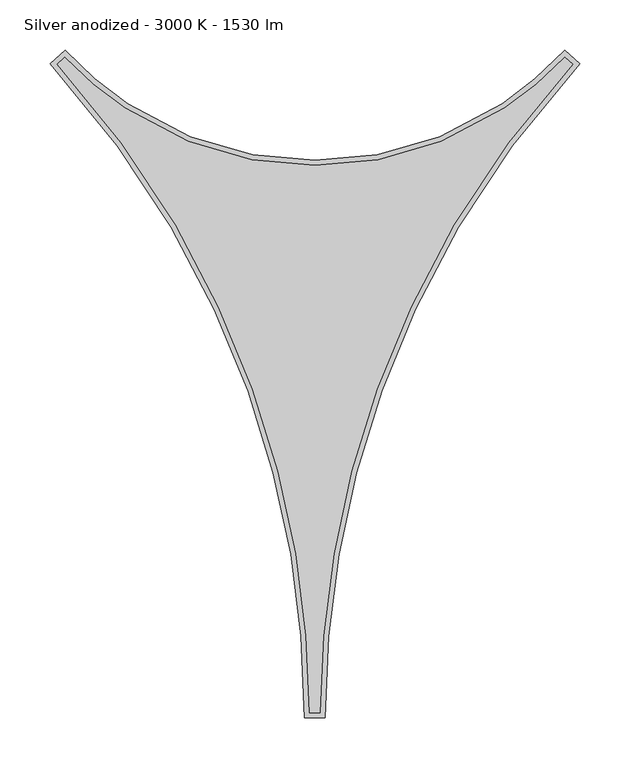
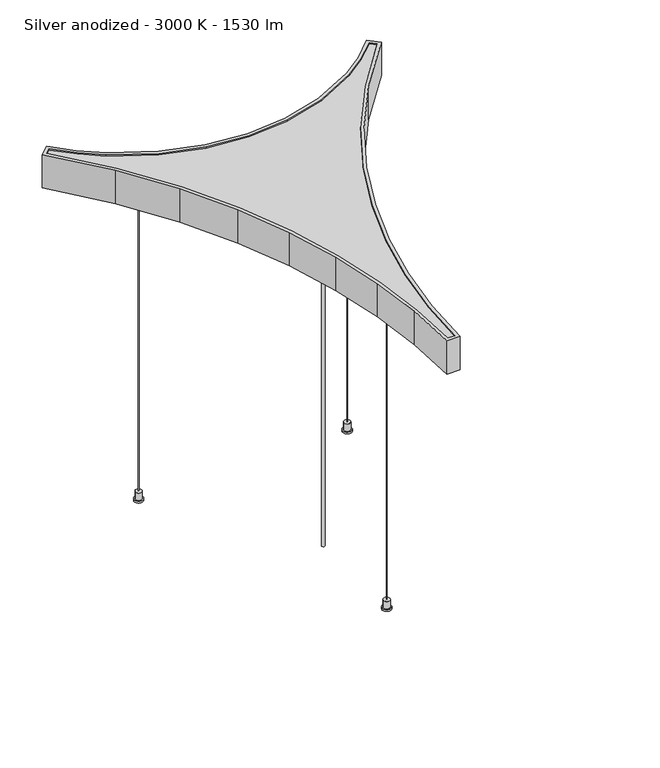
"""IFC4 building model written with IfcOpenShell, lengths in millimetres: light fixture geometry, KLUŚ - MIFOR - MI-SAIL-S : Silver anodized - 3000 K - 1530 lm."""

from ifc_helpers import new_model, si_unit, point, frame, frame_2d, origin, origin_with_axes, origin_2d, place, context, project, spatial, polyline, circle_curve, trimmed, segment, composite_curve, outline, extrude, source, transform, mapped, element, save


def silver_anodized_3000_k_1530_lm_bc2a5f50(model_context):
    return source(origin(), model_context, "Body", "SweptSolid", [
        extrude(outline(composite_curve([segment(trimmed(circle_curve(frame_2d((0.0, -171.5224088)), 1.75), [point((1.75, -171.5224088))], [point((-1.75, -171.5224088))], False, "CARTESIAN"), True, "CONTINUOUS"), segment(trimmed(circle_curve(frame_2d((0.0, -171.5224088)), 1.75), [point((-1.75, -171.5224088))], [point((1.75, -171.5224088))], False, "CARTESIAN"), True, "CONTINUOUS")], self_intersect=False)), frame((0.0, 0.0, 500.5), z_axis=(0.0, 0.0, 1.0), x_axis=(1.0, 0.0, 0.0)), (0.0, 0.0, 1.0), 3.5),
        extrude(outline(composite_curve([segment(trimmed(circle_curve(frame_2d((162.9010624, 217.6275157)), 1.75), [point((164.6510624, 217.6275157))], [point((161.1510624, 217.6275157))], False, "CARTESIAN"), True, "CONTINUOUS"), segment(trimmed(circle_curve(frame_2d((162.9010624, 217.6275157)), 1.75), [point((161.1510624, 217.6275157))], [point((164.6510624, 217.6275157))], False, "CARTESIAN"), True, "CONTINUOUS")], self_intersect=False)), frame((0.0, 0.0, 500.5), z_axis=(0.0, 0.0, 1.0), x_axis=(1.0, 0.0, 0.0)), (0.0, 0.0, 1.0), 3.5),
        extrude(outline(composite_curve([segment(trimmed(circle_curve(frame_2d((-162.9010624, 217.6275157)), 1.75), [point((-161.1510624, 217.6275157))], [point((-164.6510624, 217.6275157))], False, "CARTESIAN"), True, "CONTINUOUS"), segment(trimmed(circle_curve(frame_2d((-162.9010624, 217.6275157)), 1.75), [point((-164.6510624, 217.6275157))], [point((-161.1510624, 217.6275157))], False, "CARTESIAN"), True, "CONTINUOUS")], self_intersect=False)), frame((0.0, 0.0, 500.5), z_axis=(0.0, 0.0, 1.0), x_axis=(1.0, 0.0, 0.0)), (0.0, 0.0, 1.0), 3.5),
        extrude(outline(composite_curve([segment(trimmed(circle_curve(frame_2d((0.0, -171.5224088)), 5.0), [point((5.0, -171.5224088))], [point((-5.0, -171.5224088))], False, "CARTESIAN"), True, "CONTINUOUS"), segment(trimmed(circle_curve(frame_2d((0.0, -171.5224088)), 5.0), [point((-5.0, -171.5224088))], [point((5.0, -171.5224088))], False, "CARTESIAN"), True, "CONTINUOUS")], self_intersect=False)), frame((0.0, 0.0, 3.0), z_axis=(0.0, 0.0, 1.0), x_axis=(1.0, 0.0, 0.0)), (0.0, 0.0, 1.0), 12.0),
        extrude(outline(composite_curve([segment(trimmed(circle_curve(frame_2d((162.9010624, 217.6275157)), 5.0), [point((167.9010624, 217.6275157))], [point((157.9010624, 217.6275157))], False, "CARTESIAN"), True, "CONTINUOUS"), segment(trimmed(circle_curve(frame_2d((162.9010624, 217.6275157)), 5.0), [point((157.9010624, 217.6275157))], [point((167.9010624, 217.6275157))], False, "CARTESIAN"), True, "CONTINUOUS")], self_intersect=False)), frame((0.0, 0.0, 3.0), z_axis=(0.0, 0.0, 1.0), x_axis=(1.0, 0.0, 0.0)), (0.0, 0.0, 1.0), 12.0),
        extrude(outline(composite_curve([segment(trimmed(circle_curve(frame_2d((-162.9010624, 217.6275157)), 5.0), [point((-157.9010624, 217.6275157))], [point((-167.9010624, 217.6275157))], False, "CARTESIAN"), True, "CONTINUOUS"), segment(trimmed(circle_curve(frame_2d((-162.9010624, 217.6275157)), 5.0), [point((-167.9010624, 217.6275157))], [point((-157.9010624, 217.6275157))], False, "CARTESIAN"), True, "CONTINUOUS")], self_intersect=False)), frame((0.0, 0.0, 3.0), z_axis=(0.0, 0.0, 1.0), x_axis=(1.0, 0.0, 0.0)), (0.0, 0.0, 1.0), 12.0),
        extrude(outline(composite_curve([segment(trimmed(circle_curve(origin_2d(), 2.5), [point((2.5, 0.0))], [point((-2.5, 0.0))], False, "CARTESIAN"), True, "CONTINUOUS"), segment(trimmed(circle_curve(origin_2d(), 2.5), [point((-2.5, 0.0))], [point((2.5, 0.0))], False, "CARTESIAN"), True, "CONTINUOUS")], self_intersect=False)), origin_with_axes(), (0.0, 0.0, 1.0), 516.0),
        extrude(outline(composite_curve([segment(trimmed(circle_curve(frame_2d((-972.7974298, -350.4086266)), 967.5478962), [point((-193.5831968, 223.1540209))], [point((-257.9456293, 301.6157861))], True, "CARTESIAN"), True, "CONTINUOUS"), segment(polyline([(-257.9456293, 301.6157861), (-250.1957669, 308.7360509)]), True, "CONTINUOUS"), segment(trimmed(circle_curve(frame_2d((0.0004669, 543.359327)), 342.9959724), [point((-250.1957669, 308.7360509))], [point((-190.1832456, 257.9186281))], True, "CARTESIAN"), True, "CONTINUOUS"), segment(trimmed(circle_curve(frame_2d((0.0004664, 543.3593264)), 342.9959716), [point((-190.1832456, 257.9186281))], [point((-126.8021294, 224.6630161))], True, "CARTESIAN"), True, "CONTINUOUS"), segment(trimmed(circle_curve(frame_2d((0.0004664, 543.3593264)), 342.9959717), [point((-126.8021294, 224.6630161))], [point((-63.4010682, 206.2740524))], True, "CARTESIAN"), True, "CONTINUOUS"), segment(trimmed(circle_curve(frame_2d((0.0004664, 543.3593264)), 342.9959716), [point((-63.4010682, 206.2740524))], [point((0.0004664, 200.3633549))], True, "CARTESIAN"), True, "CONTINUOUS"), segment(trimmed(circle_curve(frame_2d((0.0004664, 543.3593264)), 342.9959717), [point((0.0004664, 200.3633549))], [point((63.4010543, 206.2738743))], True, "CARTESIAN"), True, "CONTINUOUS"), segment(trimmed(circle_curve(frame_2d((0.0004664, 543.3593264)), 342.9959715), [point((63.4010543, 206.2738743))], [point((126.8021156, 224.6626395))], True, "CARTESIAN"), True, "CONTINUOUS"), segment(trimmed(circle_curve(frame_2d((0.0004664, 543.3593264)), 342.9959717), [point((126.8021156, 224.6626395))], [point((190.212643, 257.9375956))], True, "CARTESIAN"), True, "CONTINUOUS"), segment(trimmed(circle_curve(frame_2d((0.000466, 543.3593269)), 342.9959723), [point((190.212643, 257.9375956))], [point((250.1966998, 308.7360509))], True, "CARTESIAN"), True, "CONTINUOUS"), segment(polyline([(250.1966998, 308.7360509), (257.9460546, 301.6162524)]), True, "CONTINUOUS"), segment(trimmed(circle_curve(frame_2d((972.7974298, -350.4086266)), 967.5478962), [point((257.9460546, 301.6162524))], [point((193.5831968, 223.1540209))], True, "CARTESIAN"), True, "CONTINUOUS"), segment(trimmed(circle_curve(frame_2d((972.7974298, -350.4086266)), 967.5478962), [point((193.5831968, 223.1540209))], [point((139.331527, 141.001101))], True, "CARTESIAN"), True, "CONTINUOUS"), segment(trimmed(circle_curve(frame_2d((972.7974298, -350.4086266)), 967.5478962), [point((139.331527, 141.001101))], [point((96.0661159, 58.8481812))], True, "CARTESIAN"), True, "CONTINUOUS"), segment(trimmed(circle_curve(frame_2d((972.7974298, -350.4086266)), 967.5478962), [point((96.0661159, 58.8481812))], [point((62.2196033, -23.3047387))], True, "CARTESIAN"), True, "CONTINUOUS"), segment(trimmed(circle_curve(frame_2d((972.7974298, -350.4086266)), 967.5478962), [point((62.2196033, -23.3047387))], [point((36.7696766, -105.4576587))], True, "CARTESIAN"), True, "CONTINUOUS"), segment(trimmed(circle_curve(frame_2d((972.7974298, -350.4086266)), 967.5478962), [point((36.7696766, -105.4576587))], [point((19.0453536, -187.6022735))], True, "CARTESIAN"), True, "CONTINUOUS"), segment(trimmed(circle_curve(frame_2d((972.7974298, -350.4086266)), 967.5478962), [point((19.0453536, -187.6022735))], [point((8.6120646, -269.8138816))], True, "CARTESIAN"), True, "CONTINUOUS"), segment(trimmed(circle_curve(frame_2d((972.7974298, -350.4086266)), 967.5478962), [point((8.6120646, -269.8138816))], [point((5.255864, -346.9086266))], True, "CARTESIAN"), True, "CONTINUOUS"), segment(polyline([(5.255864, -346.9086266), (-5.255864, -346.9086266)]), True, "CONTINUOUS"), segment(trimmed(circle_curve(frame_2d((-972.7974298, -350.4086266)), 967.5478962), [point((-5.255864, -346.9086266))], [point((-8.6120646, -269.8138816))], True, "CARTESIAN"), True, "CONTINUOUS"), segment(trimmed(circle_curve(frame_2d((-972.7974298, -350.4086266)), 967.5478962), [point((-8.6120646, -269.8138816))], [point((-19.0453536, -187.6022735))], True, "CARTESIAN"), True, "CONTINUOUS"), segment(trimmed(circle_curve(frame_2d((-972.7974298, -350.4086266)), 967.5478962), [point((-19.0453536, -187.6022735))], [point((-36.7696766, -105.4576587))], True, "CARTESIAN"), True, "CONTINUOUS"), segment(trimmed(circle_curve(frame_2d((-972.7974298, -350.4086266)), 967.5478962), [point((-36.7696766, -105.4576587))], [point((-62.2196033, -23.3047387))], True, "CARTESIAN"), True, "CONTINUOUS"), segment(trimmed(circle_curve(frame_2d((-972.7974298, -350.4086266)), 967.5478962), [point((-62.2196033, -23.3047387))], [point((-96.0661159, 58.8481812))], True, "CARTESIAN"), True, "CONTINUOUS"), segment(trimmed(circle_curve(frame_2d((-972.7974298, -350.4086266)), 967.5478962), [point((-96.0661159, 58.8481812))], [point((-139.331527, 141.001101))], True, "CARTESIAN"), True, "CONTINUOUS"), segment(trimmed(circle_curve(frame_2d((-972.7974298, -350.4086266)), 967.5478962), [point((-139.331527, 141.001101))], [point((-193.5831968, 223.1540209))], True, "CARTESIAN"), True, "CONTINUOUS")], self_intersect=False)), frame((0.0, 0.0, 516.0), z_axis=(0.0, 0.0, 1.0), x_axis=(1.0, 0.0, 0.0)), (0.0, 0.0, 1.0), 2.0),
        extrude(outline(composite_curve([segment(trimmed(circle_curve(frame_2d((-972.7974298, -350.4086266)), 967.5478962), [point((-193.5831968, 223.1540209))], [point((-257.9456293, 301.6157861))], True, "CARTESIAN"), True, "CONTINUOUS"), segment(polyline([(-257.9456293, 301.6157861), (-250.1957669, 308.7360509)]), True, "CONTINUOUS"), segment(trimmed(circle_curve(frame_2d((0.0004669, 543.359327)), 342.9959724), [point((-250.1957669, 308.7360509))], [point((-190.1832456, 257.9186281))], True, "CARTESIAN"), True, "CONTINUOUS"), segment(trimmed(circle_curve(frame_2d((0.0004664, 543.3593264)), 342.9959716), [point((-190.1832456, 257.9186281))], [point((-126.8021294, 224.6630161))], True, "CARTESIAN"), True, "CONTINUOUS"), segment(trimmed(circle_curve(frame_2d((0.0004664, 543.3593264)), 342.9959717), [point((-126.8021294, 224.6630161))], [point((-63.4010682, 206.2740524))], True, "CARTESIAN"), True, "CONTINUOUS"), segment(trimmed(circle_curve(frame_2d((0.0004664, 543.3593264)), 342.9959716), [point((-63.4010682, 206.2740524))], [point((0.0004664, 200.3633549))], True, "CARTESIAN"), True, "CONTINUOUS"), segment(trimmed(circle_curve(frame_2d((0.0004664, 543.3593264)), 342.9959717), [point((0.0004664, 200.3633549))], [point((63.4010543, 206.2738743))], True, "CARTESIAN"), True, "CONTINUOUS"), segment(trimmed(circle_curve(frame_2d((0.0004664, 543.3593264)), 342.9959715), [point((63.4010543, 206.2738743))], [point((126.8021156, 224.6626395))], True, "CARTESIAN"), True, "CONTINUOUS"), segment(trimmed(circle_curve(frame_2d((0.0004664, 543.3593264)), 342.9959717), [point((126.8021156, 224.6626395))], [point((190.212643, 257.9375956))], True, "CARTESIAN"), True, "CONTINUOUS"), segment(trimmed(circle_curve(frame_2d((0.000466, 543.3593269)), 342.9959723), [point((190.212643, 257.9375956))], [point((250.1966998, 308.7360509))], True, "CARTESIAN"), True, "CONTINUOUS"), segment(polyline([(250.1966998, 308.7360509), (257.9460546, 301.6162524)]), True, "CONTINUOUS"), segment(trimmed(circle_curve(frame_2d((972.7974298, -350.4086266)), 967.5478962), [point((257.9460546, 301.6162524))], [point((193.5831968, 223.1540209))], True, "CARTESIAN"), True, "CONTINUOUS"), segment(trimmed(circle_curve(frame_2d((972.7974298, -350.4086266)), 967.5478962), [point((193.5831968, 223.1540209))], [point((139.331527, 141.001101))], True, "CARTESIAN"), True, "CONTINUOUS"), segment(trimmed(circle_curve(frame_2d((972.7974298, -350.4086266)), 967.5478962), [point((139.331527, 141.001101))], [point((96.0661159, 58.8481812))], True, "CARTESIAN"), True, "CONTINUOUS"), segment(trimmed(circle_curve(frame_2d((972.7974298, -350.4086266)), 967.5478962), [point((96.0661159, 58.8481812))], [point((62.2196033, -23.3047387))], True, "CARTESIAN"), True, "CONTINUOUS"), segment(trimmed(circle_curve(frame_2d((972.7974298, -350.4086266)), 967.5478962), [point((62.2196033, -23.3047387))], [point((36.7696766, -105.4576587))], True, "CARTESIAN"), True, "CONTINUOUS"), segment(trimmed(circle_curve(frame_2d((972.7974298, -350.4086266)), 967.5478962), [point((36.7696766, -105.4576587))], [point((19.0453536, -187.6022735))], True, "CARTESIAN"), True, "CONTINUOUS"), segment(trimmed(circle_curve(frame_2d((972.7974298, -350.4086266)), 967.5478962), [point((19.0453536, -187.6022735))], [point((8.6120646, -269.8138816))], True, "CARTESIAN"), True, "CONTINUOUS"), segment(trimmed(circle_curve(frame_2d((972.7974298, -350.4086266)), 967.5478962), [point((8.6120646, -269.8138816))], [point((5.255864, -346.9086266))], True, "CARTESIAN"), True, "CONTINUOUS"), segment(polyline([(5.255864, -346.9086266), (-5.255864, -346.9086266)]), True, "CONTINUOUS"), segment(trimmed(circle_curve(frame_2d((-972.7974298, -350.4086266)), 967.5478962), [point((-5.255864, -346.9086266))], [point((-8.6120646, -269.8138816))], True, "CARTESIAN"), True, "CONTINUOUS"), segment(trimmed(circle_curve(frame_2d((-972.7974298, -350.4086266)), 967.5478962), [point((-8.6120646, -269.8138816))], [point((-19.0453536, -187.6022735))], True, "CARTESIAN"), True, "CONTINUOUS"), segment(trimmed(circle_curve(frame_2d((-972.7974298, -350.4086266)), 967.5478962), [point((-19.0453536, -187.6022735))], [point((-36.7696766, -105.4576587))], True, "CARTESIAN"), True, "CONTINUOUS"), segment(trimmed(circle_curve(frame_2d((-972.7974298, -350.4086266)), 967.5478962), [point((-36.7696766, -105.4576587))], [point((-62.2196033, -23.3047387))], True, "CARTESIAN"), True, "CONTINUOUS"), segment(trimmed(circle_curve(frame_2d((-972.7974298, -350.4086266)), 967.5478962), [point((-62.2196033, -23.3047387))], [point((-96.0661159, 58.8481812))], True, "CARTESIAN"), True, "CONTINUOUS"), segment(trimmed(circle_curve(frame_2d((-972.7974298, -350.4086266)), 967.5478962), [point((-96.0661159, 58.8481812))], [point((-139.331527, 141.001101))], True, "CARTESIAN"), True, "CONTINUOUS"), segment(trimmed(circle_curve(frame_2d((-972.7974298, -350.4086266)), 967.5478962), [point((-139.331527, 141.001101))], [point((-193.5831968, 223.1540209))], True, "CARTESIAN"), True, "CONTINUOUS")], self_intersect=False)), frame((0.0, 0.0, 551.0), z_axis=(0.0, 0.0, 1.0), x_axis=(1.0, 0.0, 0.0)), (0.0, 0.0, 1.0), 2.0),
        extrude(outline(composite_curve([segment(polyline([(-265.0065666, 301.9183976), (-249.9073468, 315.7909593)]), True, "CONTINUOUS"), segment(trimmed(circle_curve(frame_2d((0.0004669, 543.359327)), 337.9959724), [point((-249.9073468, 315.7909593))], [point((-187.4108558, 262.0796201))], True, "CARTESIAN"), True, "CONTINUOUS"), segment(trimmed(circle_curve(frame_2d((0.0004664, 543.3593264)), 337.9959716), [point((-187.4108558, 262.0796201))], [point((-124.9536734, 229.3087895))], True, "CARTESIAN"), True, "CONTINUOUS"), segment(trimmed(circle_curve(frame_2d((0.0004664, 543.3593264)), 337.9959717), [point((-124.9536734, 229.3087895))], [point((-62.4768367, 211.1878896))], True, "CARTESIAN"), True, "CONTINUOUS"), segment(trimmed(circle_curve(frame_2d((0.0004664, 543.3593264)), 337.9959716), [point((-62.4768367, 211.1878896))], [point((0.0004664, 205.3633549))], True, "CARTESIAN"), True, "CONTINUOUS"), segment(trimmed(circle_curve(frame_2d((0.0004664, 543.3593264)), 337.9959717), [point((0.0004664, 205.3633549))], [point((62.4768367, 211.1877141))], True, "CARTESIAN"), True, "CONTINUOUS"), segment(trimmed(circle_curve(frame_2d((0.0004664, 543.3593264)), 337.9959715), [point((62.4768367, 211.1877141))], [point((124.9536733, 229.3084184))], True, "CARTESIAN"), True, "CONTINUOUS"), segment(trimmed(circle_curve(frame_2d((0.0004664, 543.3593264)), 337.9959717), [point((124.9536733, 229.3084184))], [point((187.4398382, 262.098311))], True, "CARTESIAN"), True, "CONTINUOUS"), segment(trimmed(circle_curve(frame_2d((0.000466, 543.3593269)), 337.9959723), [point((187.4398382, 262.098311))], [point((249.9082796, 315.7909591))], True, "CARTESIAN"), True, "CONTINUOUS"), segment(polyline([(249.9082796, 315.7909591), (265.0069943, 301.9188617)]), True, "CONTINUOUS"), segment(trimmed(circle_curve(frame_2d((972.7974298, -350.4086266)), 962.5478962), [point((265.0069943, 301.9188617))], [point((197.6099444, 220.1900196))], True, "CARTESIAN"), True, "CONTINUOUS"), segment(trimmed(circle_curve(frame_2d((972.7974298, -350.4086266)), 962.5478962), [point((197.6099444, 220.1900196))], [point((143.6386311, 138.4616416))], True, "CARTESIAN"), True, "CONTINUOUS"), segment(trimmed(circle_curve(frame_2d((972.7974298, -350.4086266)), 962.5478962), [point((143.6386311, 138.4616416))], [point((100.5968028, 56.7332636))], True, "CARTESIAN"), True, "CONTINUOUS"), segment(trimmed(circle_curve(frame_2d((972.7974298, -350.4086266)), 962.5478962), [point((100.5968028, 56.7332636))], [point((66.9251989, -24.9951144))], True, "CARTESIAN"), True, "CONTINUOUS"), segment(trimmed(circle_curve(frame_2d((972.7974298, -350.4086266)), 962.5478962), [point((66.9251989, -24.9951144))], [point((41.6067898, -106.7234925))], True, "CARTESIAN"), True, "CONTINUOUS"), segment(trimmed(circle_curve(frame_2d((972.7974298, -350.4086266)), 962.5478962), [point((41.6067898, -106.7234925))], [point((23.9740609, -188.4436084))], True, "CARTESIAN"), True, "CONTINUOUS"), segment(trimmed(circle_curve(frame_2d((972.7974298, -350.4086266)), 962.5478962), [point((23.9740609, -188.4436084))], [point((13.594688, -270.2303713))], True, "CARTESIAN"), True, "CONTINUOUS"), segment(trimmed(circle_curve(frame_2d((972.7974298, -350.4086266)), 962.5478962), [point((13.594688, -270.2303713))], [point((10.2507024, -351.9086266))], True, "CARTESIAN"), True, "CONTINUOUS"), segment(polyline([(10.2507024, -351.9086266), (-10.2507024, -351.9086266)]), True, "CONTINUOUS"), segment(trimmed(circle_curve(frame_2d((-972.7974298, -350.4086266)), 962.5478962), [point((-10.2507024, -351.9086266))], [point((-13.594688, -270.2303713))], True, "CARTESIAN"), True, "CONTINUOUS"), segment(trimmed(circle_curve(frame_2d((-972.7974298, -350.4086266)), 962.5478962), [point((-13.594688, -270.2303713))], [point((-23.9740609, -188.4436084))], True, "CARTESIAN"), True, "CONTINUOUS"), segment(trimmed(circle_curve(frame_2d((-972.7974298, -350.4086266)), 962.5478962), [point((-23.9740609, -188.4436084))], [point((-41.6067898, -106.7234925))], True, "CARTESIAN"), True, "CONTINUOUS"), segment(trimmed(circle_curve(frame_2d((-972.7974298, -350.4086266)), 962.5478962), [point((-41.6067898, -106.7234925))], [point((-66.9251989, -24.9951144))], True, "CARTESIAN"), True, "CONTINUOUS"), segment(trimmed(circle_curve(frame_2d((-972.7974298, -350.4086266)), 962.5478962), [point((-66.9251989, -24.9951144))], [point((-100.5968028, 56.7332636))], True, "CARTESIAN"), True, "CONTINUOUS"), segment(trimmed(circle_curve(frame_2d((-972.7974298, -350.4086266)), 962.5478962), [point((-100.5968028, 56.7332636))], [point((-143.6386311, 138.4616416))], True, "CARTESIAN"), True, "CONTINUOUS"), segment(trimmed(circle_curve(frame_2d((-972.7974298, -350.4086266)), 962.5478962), [point((-143.6386311, 138.4616416))], [point((-197.6099444, 220.1900196))], True, "CARTESIAN"), True, "CONTINUOUS"), segment(trimmed(circle_curve(frame_2d((-972.7974298, -350.4086266)), 962.5478962), [point((-197.6099444, 220.1900196))], [point((-265.0065666, 301.9183976))], True, "CARTESIAN"), True, "CONTINUOUS")], self_intersect=False), holes=[composite_curve([segment(trimmed(circle_curve(frame_2d((-972.7974298, -350.4086266)), 967.5478962), [point((-193.5831968, 223.1540209))], [point((-139.331527, 141.001101))], False, "CARTESIAN"), True, "CONTINUOUS"), segment(trimmed(circle_curve(frame_2d((-972.7974298, -350.4086266)), 967.5478962), [point((-139.331527, 141.001101))], [point((-96.0661159, 58.8481812))], False, "CARTESIAN"), True, "CONTINUOUS"), segment(trimmed(circle_curve(frame_2d((-972.7974298, -350.4086266)), 967.5478962), [point((-96.0661159, 58.8481812))], [point((-62.2196033, -23.3047387))], False, "CARTESIAN"), True, "CONTINUOUS"), segment(trimmed(circle_curve(frame_2d((-972.7974298, -350.4086266)), 967.5478962), [point((-62.2196033, -23.3047387))], [point((-36.7696766, -105.4576587))], False, "CARTESIAN"), True, "CONTINUOUS"), segment(trimmed(circle_curve(frame_2d((-972.7974298, -350.4086266)), 967.5478962), [point((-36.7696766, -105.4576587))], [point((-19.0453536, -187.6022735))], False, "CARTESIAN"), True, "CONTINUOUS"), segment(trimmed(circle_curve(frame_2d((-972.7974298, -350.4086266)), 967.5478962), [point((-19.0453536, -187.6022735))], [point((-8.6120646, -269.8138816))], False, "CARTESIAN"), True, "CONTINUOUS"), segment(trimmed(circle_curve(frame_2d((-972.7974298, -350.4086266)), 967.5478962), [point((-8.6120646, -269.8138816))], [point((-5.255864, -346.9086266))], False, "CARTESIAN"), True, "CONTINUOUS"), segment(polyline([(-5.255864, -346.9086266), (5.255864, -346.9086266)]), True, "CONTINUOUS"), segment(trimmed(circle_curve(frame_2d((972.7974298, -350.4086266)), 967.5478962), [point((5.255864, -346.9086266))], [point((8.6120646, -269.8138816))], False, "CARTESIAN"), True, "CONTINUOUS"), segment(trimmed(circle_curve(frame_2d((972.7974298, -350.4086266)), 967.5478962), [point((8.6120646, -269.8138816))], [point((19.0453536, -187.6022735))], False, "CARTESIAN"), True, "CONTINUOUS"), segment(trimmed(circle_curve(frame_2d((972.7974298, -350.4086266)), 967.5478962), [point((19.0453536, -187.6022735))], [point((36.7696766, -105.4576587))], False, "CARTESIAN"), True, "CONTINUOUS"), segment(trimmed(circle_curve(frame_2d((972.7974298, -350.4086266)), 967.5478962), [point((36.7696766, -105.4576587))], [point((62.2196033, -23.3047387))], False, "CARTESIAN"), True, "CONTINUOUS"), segment(trimmed(circle_curve(frame_2d((972.7974298, -350.4086266)), 967.5478962), [point((62.2196033, -23.3047387))], [point((96.0661159, 58.8481812))], False, "CARTESIAN"), True, "CONTINUOUS"), segment(trimmed(circle_curve(frame_2d((972.7974298, -350.4086266)), 967.5478962), [point((96.0661159, 58.8481812))], [point((139.331527, 141.001101))], False, "CARTESIAN"), True, "CONTINUOUS"), segment(trimmed(circle_curve(frame_2d((972.7974298, -350.4086266)), 967.5478962), [point((139.331527, 141.001101))], [point((193.5831968, 223.1540209))], False, "CARTESIAN"), True, "CONTINUOUS"), segment(trimmed(circle_curve(frame_2d((972.7974298, -350.4086266)), 967.5478962), [point((193.5831968, 223.1540209))], [point((257.9460546, 301.6162524))], False, "CARTESIAN"), True, "CONTINUOUS"), segment(polyline([(257.9460546, 301.6162524), (250.1966998, 308.7360509)]), True, "CONTINUOUS"), segment(trimmed(circle_curve(frame_2d((0.000466, 543.3593269)), 342.9959723), [point((250.1966998, 308.7360509))], [point((190.212643, 257.9375955))], False, "CARTESIAN"), True, "CONTINUOUS"), segment(trimmed(circle_curve(frame_2d((0.0004664, 543.3593264)), 342.9959717), [point((190.212643, 257.9375955))], [point((126.8021156, 224.6626394))], False, "CARTESIAN"), True, "CONTINUOUS"), segment(trimmed(circle_curve(frame_2d((0.0004664, 543.3593264)), 342.9959715), [point((126.8021156, 224.6626394))], [point((63.4010543, 206.2738744))], False, "CARTESIAN"), True, "CONTINUOUS"), segment(trimmed(circle_curve(frame_2d((0.0004664, 543.3593264)), 342.9959717), [point((63.4010543, 206.2738744))], [point((0.0004664, 200.3633547))], False, "CARTESIAN"), True, "CONTINUOUS"), segment(trimmed(circle_curve(frame_2d((0.0004664, 543.3593264)), 342.9959716), [point((0.0004664, 200.3633547))], [point((-63.4010682, 206.2740525))], False, "CARTESIAN"), True, "CONTINUOUS"), segment(trimmed(circle_curve(frame_2d((0.0004664, 543.3593264)), 342.9959717), [point((-63.4010682, 206.2740525))], [point((-126.8021295, 224.663016))], False, "CARTESIAN"), True, "CONTINUOUS"), segment(trimmed(circle_curve(frame_2d((0.0004664, 543.3593264)), 342.9959716), [point((-126.8021295, 224.663016))], [point((-190.1832456, 257.9186282))], False, "CARTESIAN"), True, "CONTINUOUS"), segment(trimmed(circle_curve(frame_2d((0.0004669, 543.359327)), 342.9959724), [point((-190.1832456, 257.9186282))], [point((-250.1957669, 308.7360509))], False, "CARTESIAN"), True, "CONTINUOUS"), segment(polyline([(-250.1957669, 308.7360509), (-257.9456293, 301.6157861)]), True, "CONTINUOUS"), segment(trimmed(circle_curve(frame_2d((-972.7974298, -350.4086266)), 967.5478962), [point((-257.9456293, 301.6157861))], [point((-193.5831968, 223.1540209))], False, "CARTESIAN"), True, "CONTINUOUS")], self_intersect=False)]), frame((0.0, 0.0, 500.0), z_axis=(0.0, 0.0, 1.0), x_axis=(1.0, 0.0, 0.0)), (0.0, 0.0, 1.0), 55.0),
        extrude(outline(composite_curve([segment(trimmed(circle_curve(frame_2d((0.0, -171.5224088)), 0.5), [point((0.5, -171.5224088))], [point((-0.5, -171.5224088))], False, "CARTESIAN"), True, "CONTINUOUS"), segment(trimmed(circle_curve(frame_2d((0.0, -171.5224088)), 0.5), [point((-0.5, -171.5224088))], [point((0.5, -171.5224088))], False, "CARTESIAN"), True, "CONTINUOUS")], self_intersect=False)), frame((0.0, 0.0, 15.0), z_axis=(0.0, 0.0, 1.0), x_axis=(1.0, 0.0, 0.0)), (0.0, 0.0, 1.0), 485.5),
        extrude(outline(composite_curve([segment(trimmed(circle_curve(frame_2d((162.9010624, 217.6275157)), 0.5), [point((163.4010624, 217.6275157))], [point((162.4010624, 217.6275157))], False, "CARTESIAN"), True, "CONTINUOUS"), segment(trimmed(circle_curve(frame_2d((162.9010624, 217.6275157)), 0.5), [point((162.4010624, 217.6275157))], [point((163.4010624, 217.6275157))], False, "CARTESIAN"), True, "CONTINUOUS")], self_intersect=False)), frame((0.0, 0.0, 15.0), z_axis=(0.0, 0.0, 1.0), x_axis=(1.0, 0.0, 0.0)), (0.0, 0.0, 1.0), 485.5),
        extrude(outline(composite_curve([segment(trimmed(circle_curve(frame_2d((-162.9010624, 217.6275157)), 0.5), [point((-162.4010624, 217.6275157))], [point((-163.4010624, 217.6275157))], False, "CARTESIAN"), True, "CONTINUOUS"), segment(trimmed(circle_curve(frame_2d((-162.9010624, 217.6275157)), 0.5), [point((-163.4010624, 217.6275157))], [point((-162.4010624, 217.6275157))], False, "CARTESIAN"), True, "CONTINUOUS")], self_intersect=False)), frame((0.0, 0.0, 15.0), z_axis=(0.0, 0.0, 1.0), x_axis=(1.0, 0.0, 0.0)), (0.0, 0.0, 1.0), 485.5),
        extrude(outline(composite_curve([segment(trimmed(circle_curve(frame_2d((-162.9010624, 217.6275157)), 4.0), [point((-158.9010624, 217.6275157))], [point((-166.9010624, 217.6275157))], False, "CARTESIAN"), True, "CONTINUOUS"), segment(trimmed(circle_curve(frame_2d((-162.9010624, 217.6275157)), 4.0), [point((-166.9010624, 217.6275157))], [point((-158.9010624, 217.6275157))], False, "CARTESIAN"), True, "CONTINUOUS")], self_intersect=False)), frame((0.0, 0.0, 504.0), z_axis=(0.0, 0.0, 1.0), x_axis=(1.0, 0.0, 0.0)), (0.0, 0.0, 1.0), 12.0),
        extrude(outline(composite_curve([segment(trimmed(circle_curve(frame_2d((162.9010624, 217.6275157)), 4.0), [point((166.9010624, 217.6275157))], [point((158.9010624, 217.6275157))], False, "CARTESIAN"), True, "CONTINUOUS"), segment(trimmed(circle_curve(frame_2d((162.9010624, 217.6275157)), 4.0), [point((158.9010624, 217.6275157))], [point((166.9010624, 217.6275157))], False, "CARTESIAN"), True, "CONTINUOUS")], self_intersect=False)), frame((0.0, 0.0, 504.0), z_axis=(0.0, 0.0, 1.0), x_axis=(1.0, 0.0, 0.0)), (0.0, 0.0, 1.0), 12.0),
        extrude(outline(composite_curve([segment(trimmed(circle_curve(frame_2d((0.0, -171.5224088)), 4.0), [point((4.0, -171.5224088))], [point((-4.0, -171.5224088))], False, "CARTESIAN"), True, "CONTINUOUS"), segment(trimmed(circle_curve(frame_2d((0.0, -171.5224088)), 4.0), [point((-4.0, -171.5224088))], [point((4.0, -171.5224088))], False, "CARTESIAN"), True, "CONTINUOUS")], self_intersect=False)), frame((0.0, 0.0, 504.0), z_axis=(0.0, 0.0, 1.0), x_axis=(1.0, 0.0, 0.0)), (0.0, 0.0, 1.0), 12.0),
        extrude(outline(composite_curve([segment(trimmed(circle_curve(frame_2d((0.0, -171.5224088)), 7.0), [point((7.0, -171.5224088))], [point((-7.0, -171.5224088))], False, "CARTESIAN"), True, "CONTINUOUS"), segment(trimmed(circle_curve(frame_2d((0.0, -171.5224088)), 7.0), [point((-7.0, -171.5224088))], [point((7.0, -171.5224088))], False, "CARTESIAN"), True, "CONTINUOUS")], self_intersect=False)), origin_with_axes(), (0.0, 0.0, 1.0), 3.0),
        extrude(outline(composite_curve([segment(trimmed(circle_curve(frame_2d((162.9010624, 217.6275157)), 7.0), [point((169.9010624, 217.6275157))], [point((155.9010624, 217.6275157))], False, "CARTESIAN"), True, "CONTINUOUS"), segment(trimmed(circle_curve(frame_2d((162.9010624, 217.6275157)), 7.0), [point((155.9010624, 217.6275157))], [point((169.9010624, 217.6275157))], False, "CARTESIAN"), True, "CONTINUOUS")], self_intersect=False)), origin_with_axes(), (0.0, 0.0, 1.0), 3.0),
        extrude(outline(composite_curve([segment(trimmed(circle_curve(frame_2d((-162.9010624, 217.6275157)), 7.0), [point((-155.9010624, 217.6275157))], [point((-169.9010624, 217.6275157))], False, "CARTESIAN"), True, "CONTINUOUS"), segment(trimmed(circle_curve(frame_2d((-162.9010624, 217.6275157)), 7.0), [point((-169.9010624, 217.6275157))], [point((-155.9010624, 217.6275157))], False, "CARTESIAN"), True, "CONTINUOUS")], self_intersect=False)), origin_with_axes(), (0.0, 0.0, 1.0), 3.0),
    ])


if __name__ == "__main__":
    model = new_model("IFC4")
    model_context = context("Model", 3, world=origin())
    ifc_project = project(units=[si_unit("LENGTHUNIT", "METRE", prefix="MILLI")], contexts=[model_context])
    site = spatial("IfcSite", under=ifc_project)
    building = spatial("IfcBuilding", under=site)
    placement = place(None, origin())
    silver_anodized_3000_k_1530_lm_shape = silver_anodized_3000_k_1530_lm_bc2a5f50(model_context)
    element("IfcLightFixture", 1, ObjectType="KLUŚ - MIFOR - MI-SAIL-S : Silver anodized - 3000 K - 1530 lm", at=placement, inside=building, context=model_context, shape_type="MappedRepresentation", body=[
        mapped(silver_anodized_3000_k_1530_lm_shape, transform((0.0, 0.0, 0.0), x_axis=(1.0, 0.0, 0.0), y_axis=(0.0, 1.0, 0.0), z_axis=(0.0, 0.0, 1.0))),
    ])
    save(model, "model.ifc")
